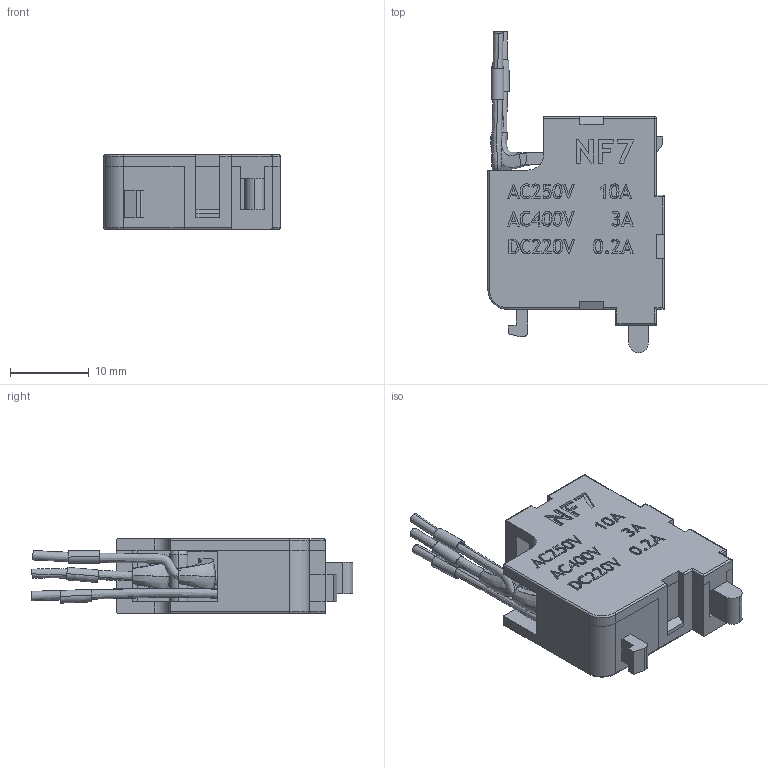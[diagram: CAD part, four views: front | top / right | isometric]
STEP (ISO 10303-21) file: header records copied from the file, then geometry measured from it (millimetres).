
FILE_DESCRIPTION (( 'STEP AP203' ), '1' );
FILE_NAME ('落翑.STEP', '2024-09-20T08:33:17', ( 'A' ), ( '' ), 'SwSTEP 2.0', 'SolidWorks 2018', '' );
FILE_SCHEMA (( 'CONFIG_CONTROL_DESIGN' ));
Length unit declared in the file: millimetre
Products named in the file (1): ｸｨﾖ銈ｨｲ_｡ｧ2
Bounding box: 22.4 x 40.84 x 9.5 mm (x, y, z)
Volume: 2597 mm3; surface area: 5044 mm2
Topology: 12 solids, 12 shells, 739 faces, 1940 edges, 1276 vertices
Faces by surface type: plane 474, bspline 193, cylinder 64, torus 6, sphere 2
Entity records: 47207 total; most frequent: CARTESIAN_POINT 30292, ORIENTED_EDGE 3876, DIRECTION 2700, EDGE_CURVE 1938, LINE 1348, VECTOR 1348, VERTEX_POINT 1276, EDGE_LOOP 812
